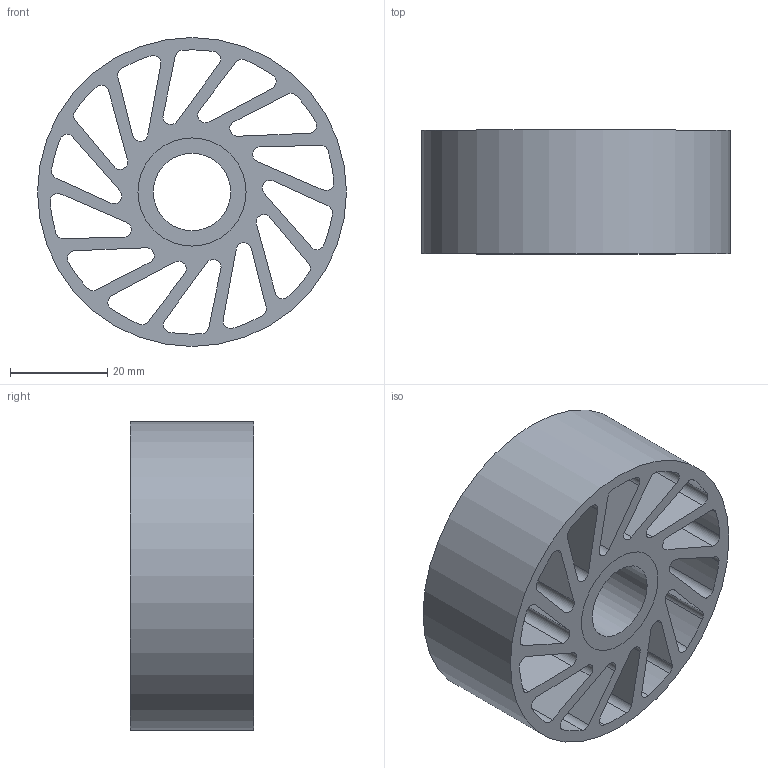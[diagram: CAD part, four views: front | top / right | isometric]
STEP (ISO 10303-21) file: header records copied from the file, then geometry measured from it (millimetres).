
FILE_DESCRIPTION(/* description */ (''),/* implementation_level */ '2;1');
FILE_NAME(/* name */ 'C:\Users\Owner\Desktop\Meridian Stuff\Oilite\NCWOB-330-XXX.stp',/* time_stamp */ '2023-05-22T16:29:36-05:00',/* author */ ('ASG'),/* organization */ ('Meridian Laboratory '),/* preprocessor_version */ 'ST-DEVELOPER v19',/* originating_system */ 'Autodesk Inventor 2023',/* authorisation */ '');
FILE_SCHEMA (('AUTOMOTIVE_DESIGN { 1 0 10303 214 3 1 1 }'));
Length unit declared in the file: inch
Products named in the file (1): NCWOB-300-XXX
Bounding box: 63.5 x 25.4 x 63.5 mm (x, y, z)
Volume: 40044.6 mm3; surface area: 28413.6 mm2
Topology: 2 solids, 2 shells, 92 faces, 264 edges, 176 vertices
Faces by surface type: cylinder 60, plane 32
Full cylindrical faces by diameter (mm): 15.926 x1, 22.225 x2, 63.5 x1
Entity records: 3285 total; most frequent: DIRECTION 570, CARTESIAN_POINT 533, ORIENTED_EDGE 528, EDGE_CURVE 264, AXIS2_PLACEMENT_3D 213, VERTEX_POINT 176, LINE 144, VECTOR 144
